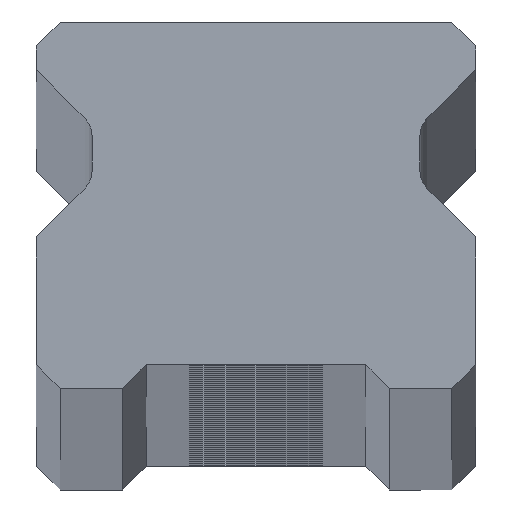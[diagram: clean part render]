
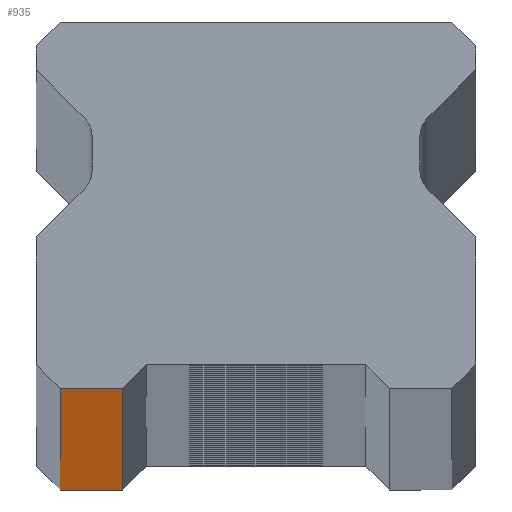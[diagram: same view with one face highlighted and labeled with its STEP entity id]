
A CAD part, top view. The second image highlights one B-rep face of the part: STEP entity #935.
In plain terms, the highlighted planar face has unit normal (0, -1, 0).
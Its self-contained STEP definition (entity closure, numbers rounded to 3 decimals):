
#164 = EDGE_CURVE ( 'NONE', #4821, #1778, #6996, .T. ) ;
#333 = CARTESIAN_POINT ( 'NONE',  ( -10.25, 0., -1520. ) ) ;
#735 = LINE ( 'NONE', #7328, #5899 ) ;
#795 = CARTESIAN_POINT ( 'NONE',  ( 11.5, 0., 1520. ) ) ;
#935 = ADVANCED_FACE ( 'NONE', ( #8457 ), #6272, .F. ) ;
#1078 = DIRECTION ( 'NONE',  ( 0., 0., -1. ) ) ;
#1468 = DIRECTION ( 'NONE',  ( 0., 1., 0. ) ) ;
#1778 = VERTEX_POINT ( 'NONE', #5350 ) ;
#1813 = CARTESIAN_POINT ( 'NONE',  ( -10.25, 0., 1520. ) ) ;
#2231 = CARTESIAN_POINT ( 'NONE',  ( -10.25, 0., 1520. ) ) ;
#2492 = DIRECTION ( 'NONE',  ( 1., 0., 0. ) ) ;
#2840 = DIRECTION ( 'NONE',  ( -1., 0., 0. ) ) ;
#3237 = EDGE_CURVE ( 'NONE', #6817, #4821, #4592, .T. ) ;
#3340 = CARTESIAN_POINT ( 'NONE',  ( -7., 0., -1520. ) ) ;
#3352 = LINE ( 'NONE', #1813, #7156 ) ;
#4171 = ORIENTED_EDGE ( 'NONE', *, *, #6018, .F. ) ;
#4592 = LINE ( 'NONE', #5846, #5890 ) ;
#4650 = EDGE_LOOP ( 'NONE', ( #6816, #5989, #4171, #6732 ) ) ;
#4821 = VERTEX_POINT ( 'NONE', #3340 ) ;
#5179 = VECTOR ( 'NONE', #6754, 1000. ) ;
#5350 = CARTESIAN_POINT ( 'NONE',  ( -7., 0., 1520. ) ) ;
#5643 = AXIS2_PLACEMENT_3D ( 'NONE', #795, #1468, #2840 ) ;
#5846 = CARTESIAN_POINT ( 'NONE',  ( 11.5, 0., -1520. ) ) ;
#5890 = VECTOR ( 'NONE', #2492, 1000. ) ;
#5899 = VECTOR ( 'NONE', #6703, 1000. ) ;
#5989 = ORIENTED_EDGE ( 'NONE', *, *, #164, .T. ) ;
#6018 = EDGE_CURVE ( 'NONE', #8019, #1778, #735, .T. ) ;
#6272 = PLANE ( 'NONE',  #5643 ) ;
#6504 = EDGE_CURVE ( 'NONE', #8019, #6817, #3352, .T. ) ;
#6703 = DIRECTION ( 'NONE',  ( 1., 0., 0. ) ) ;
#6732 = ORIENTED_EDGE ( 'NONE', *, *, #6504, .T. ) ;
#6754 = DIRECTION ( 'NONE',  ( 0., 0., 1. ) ) ;
#6816 = ORIENTED_EDGE ( 'NONE', *, *, #3237, .T. ) ;
#6817 = VERTEX_POINT ( 'NONE', #333 ) ;
#6996 = LINE ( 'NONE', #7347, #5179 ) ;
#7156 = VECTOR ( 'NONE', #1078, 1000. ) ;
#7328 = CARTESIAN_POINT ( 'NONE',  ( 11.5, 0., 1520. ) ) ;
#7347 = CARTESIAN_POINT ( 'NONE',  ( -7., 0., -1520. ) ) ;
#8019 = VERTEX_POINT ( 'NONE', #2231 ) ;
#8457 = FACE_OUTER_BOUND ( 'NONE', #4650, .T. ) ;
